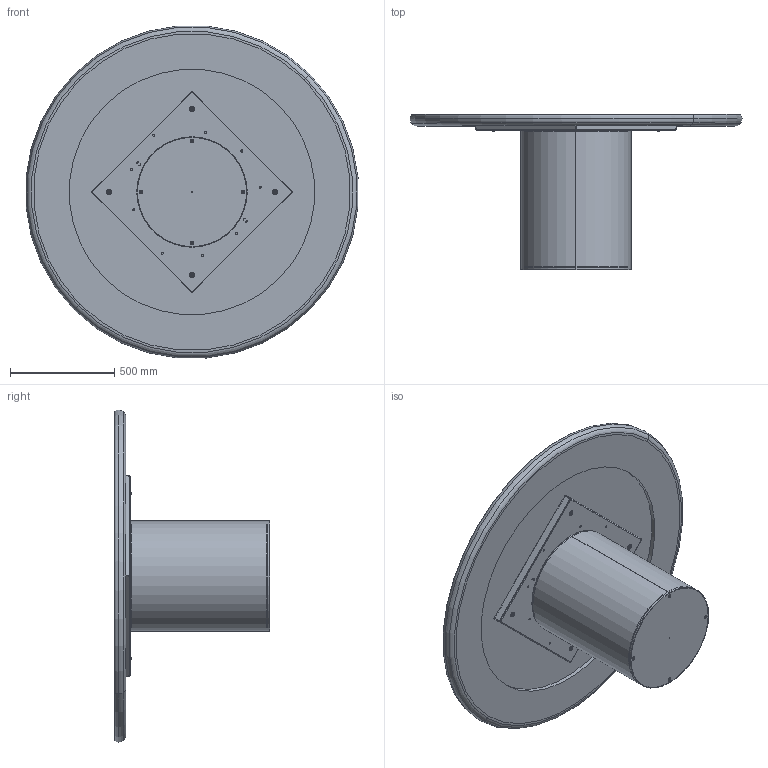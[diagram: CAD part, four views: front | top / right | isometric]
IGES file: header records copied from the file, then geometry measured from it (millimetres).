
Start section: SolidWorks IGES file using analytic representation for surfaces
Global section: file name: Y:\eforma\TECNICO\SOLIDWORKS\E-FORMA\1-TAVOLI\CILINDRO\02 parts\CI06K_Cilindro_d.160_King.IGS; native system: SolidWorks 2022; preprocessor: SolidWorks 2022; author: eforma.tech; date: 240801.145900; units: millimetre
Bounding box: 1593.91 x 746 x 1593.91 mm (x, y, z)
Volume: 95559512.1 mm3; surface area: 12346293.9 mm2
Topology: 32 solids, 32 shells, 1066 faces, 2576 edges, 1546 vertices
Faces by surface type: revolution 618, plane 448
